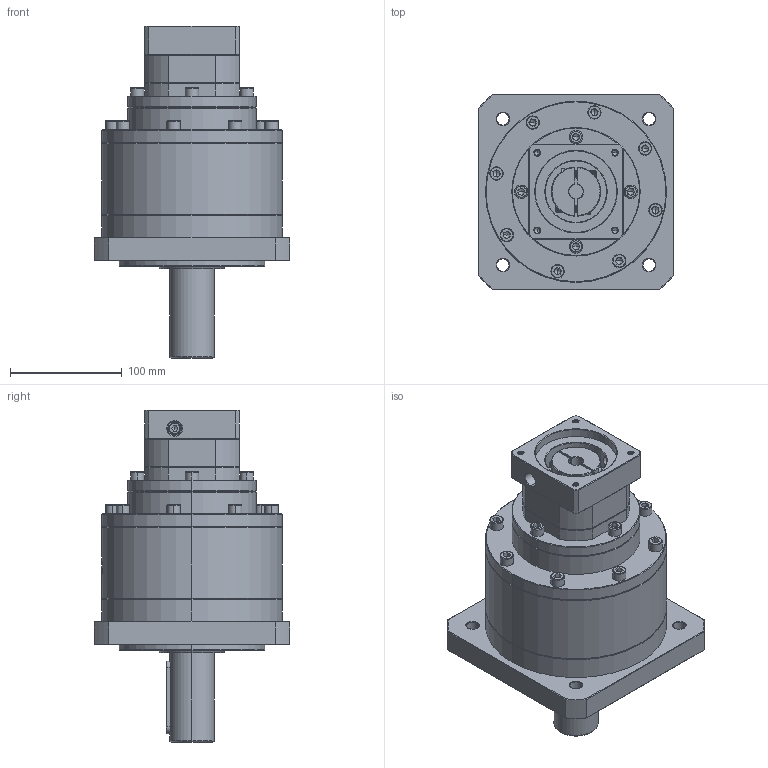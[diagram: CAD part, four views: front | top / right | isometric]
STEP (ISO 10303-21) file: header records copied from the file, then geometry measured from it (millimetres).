
FILE_DESCRIPTION (( 'STEP AP214' ), '1' );
FILE_NAME ('ZF160A-D40-L3-12.7-73-69.6X69.6-M6.step', '2023-03-22T07:10:58', ( '' ), ( '' ), 'SwSTEP 2.0', 'SolidWorks 2016', '' );
FILE_SCHEMA (( 'AUTOMOTIVE_DESIGN' ));
Length unit declared in the file: millimetre
Products named in the file (1): ZF160A-D40-L3-12.7-73-69.6X69.6-M6
Bounding box: 175 x 175 x 297.2 mm (x, y, z)
Volume: 3406336.7 mm3; surface area: 227479.6 mm2
Topology: 5 solids, 6 shells, 1847 faces, 4678 edges, 2951 vertices
Faces by surface type: plane 772, cylinder 464, cone 346, bspline 204, torus 61
Entity records: 97413 total; most frequent: CARTESIAN_POINT 34878, ORIENTED_EDGE 9248, DIRECTION 8121, EDGE_CURVE 4624, VERTEX_POINT 2951, AXIS2_PLACEMENT_3D 2809, VECTOR 2503, LINE 2503
